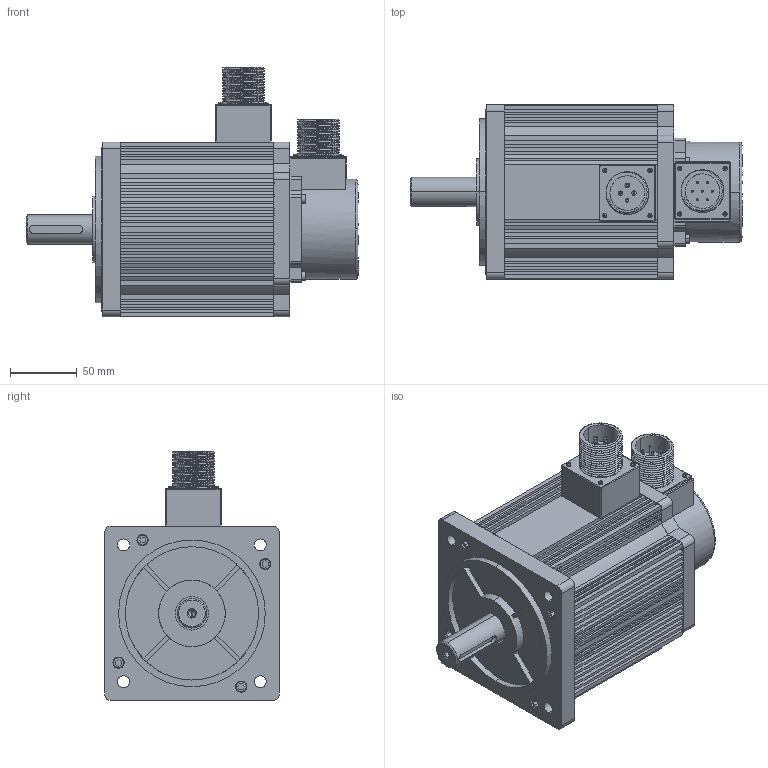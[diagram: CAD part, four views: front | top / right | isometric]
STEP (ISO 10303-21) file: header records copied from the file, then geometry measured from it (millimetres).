
FILE_DESCRIPTION (( 'STEP AP203' ), '1' );
FILE_NAME ('ACM13020M2F-B4-D.STEP', '2020-07-20T06:37:42', ( '謂矨栲' ), ( 'Microsoft' ), 'SwSTEP 2.0', 'SolidWorks 2014', '' );
FILE_SCHEMA (( 'CONFIG_CONTROL_DESIGN' ));
Length unit declared in the file: millimetre
Products named in the file (1): ACM13020M2F-B4-D
Bounding box: 249 x 131.1 x 187 mm (x, y, z)
Volume: 2439763 mm3; surface area: 285408.8 mm2
Topology: 5 solids, 5 shells, 1016 faces, 2924 edges, 1960 vertices
Faces by surface type: plane 588, cylinder 345, bspline 37, torus 26, sphere 14, cone 6
Entity records: 44030 total; most frequent: CARTESIAN_POINT 18280, ORIENTED_EDGE 5780, DIRECTION 4739, EDGE_CURVE 2890, VERTEX_POINT 1946, LINE 1735, VECTOR 1735, AXIS2_PLACEMENT_3D 1502
